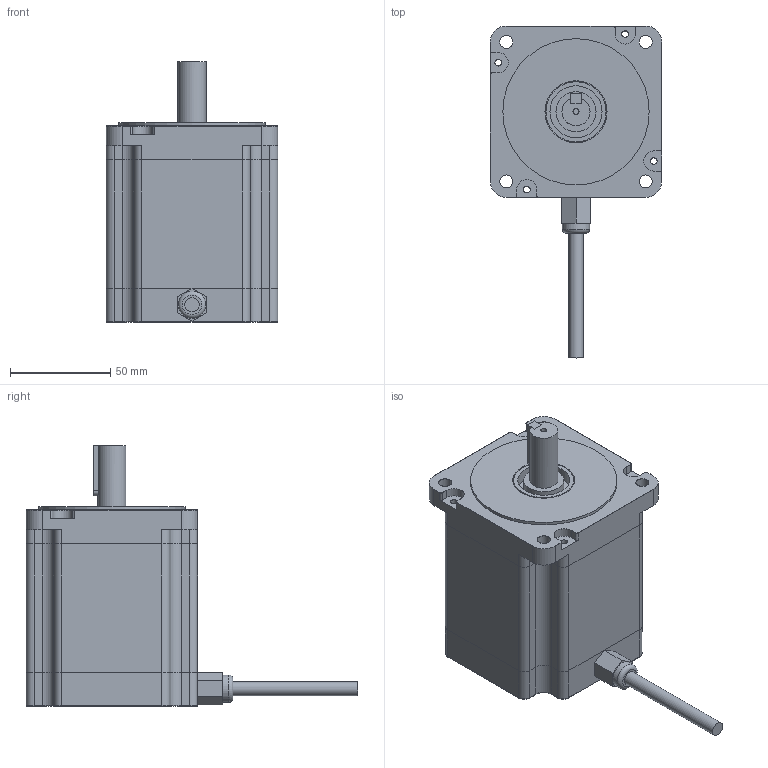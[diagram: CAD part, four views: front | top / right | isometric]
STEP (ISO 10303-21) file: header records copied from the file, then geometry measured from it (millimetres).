
FILE_DESCRIPTION(/* description */ (''),/* implementation_level */ '2;1');
FILE_NAME(/* name */ 'MP3-86HI098.step',/* time_stamp */ '2023-03-07T09:17:06+08:00',/* author */ (''),/* organization */ (''),/* preprocessor_version */ 'ST-DEVELOPER v16',/* originating_system */ 'SIEMENS PLM Software NX 10.0',/* authorisation */ '');
FILE_SCHEMA (('AUTOMOTIVE_DESIGN { 1 0 10303 214 3 1 1 1 }'));
Length unit declared in the file: millimetre
Products named in the file (1): MP3-86HI098
Bounding box: 85.5 x 165.5 x 130 mm (x, y, z)
Volume: 660800.2 mm3; surface area: 106970.9 mm2
Topology: 14 solids, 14 shells, 247 faces, 637 edges, 424 vertices
Faces by surface type: cylinder 120, plane 114, torus 13
Full cylindrical faces by diameter (mm): 3 x2, 3.4 x12, 6.5 x8, 7.1 x3, 13.6 x1, 14 x5, 20 x1, 26 x1, 30 x1, 31 x3, 73 x1
Entity records: 7415 total; most frequent: DIRECTION 1321, CARTESIAN_POINT 1252, ORIENTED_EDGE 1148, EDGE_CURVE 574, AXIS2_PLACEMENT_3D 500, VERTEX_POINT 400, EDGE_LOOP 340, LINE 321
